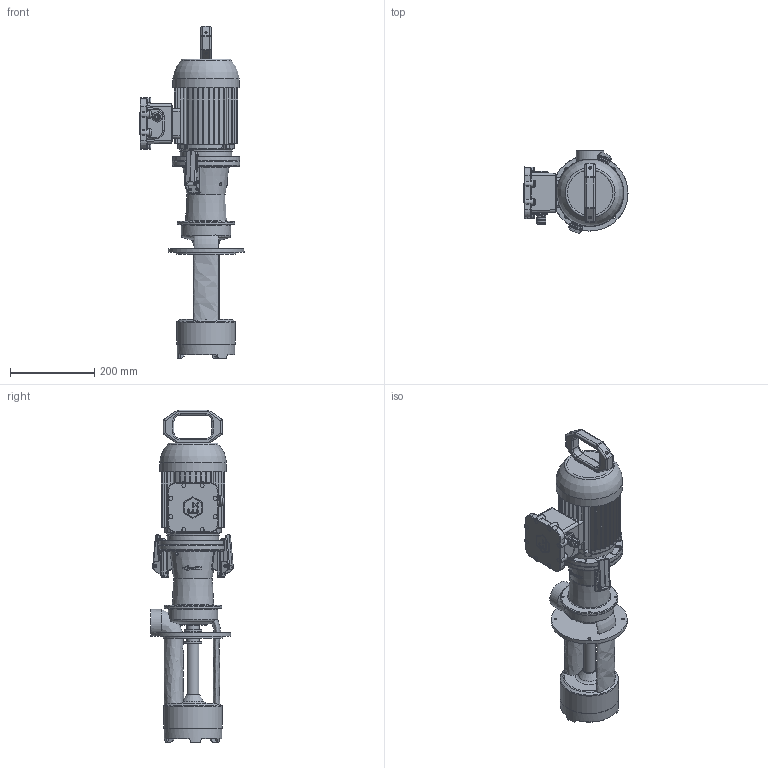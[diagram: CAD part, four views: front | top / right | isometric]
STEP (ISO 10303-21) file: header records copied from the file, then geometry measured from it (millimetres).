
FILE_DESCRIPTION(/* description */ ('Unknown'),/* implementation_level */ '2;1');
FILE_NAME(/* name */ 'EP EX 252-250',/* time_stamp */ '2025-06-03T09:13:48+03:00',/* author */ ('Unknown'),/* organization */ ('Unknown'),/* preprocessor_version */ 'ST-DEVELOPER v16.7',/* originating_system */ 'DEX',/* authorisation */ $);
FILE_SCHEMA (('AUTOMOTIVE_DESIGN {1 0 10303 214 3 1 1}'));
Length unit declared in the file: millimetre
Products named in the file (1): EP EX 252-250
Bounding box: 246.5 x 195.43 x 786.45 mm (x, y, z)
Volume: 8150327.7 mm3; surface area: 717239.3 mm2
Topology: 1 solids, 22 shells, 2297 faces, 6058 edges, 3779 vertices
Faces by surface type: cylinder 802, plane 730, bspline 404, torus 201, cone 113, sphere 47
Full cylindrical faces by diameter (mm): 3 x12, 3.242 x16, 4 x10, 4.134 x24, 4.9 x4, 5 x90, 5.3 x4, 5.5 x2, 5.7 x8, 6 x8, 7 x8, 8 x3, 9.5 x8, 12 x1, 13 x2, 13.962 x1, 16 x1, 18.348 x1, 18.376 x5, 19 x1, 20 x2, 21.8 x2, 28 x1, 29 x3, 30 x1, 42 x3, 44 x1, 48 x1, 62 x1, 73 x1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
Entity records: 109777 total; most frequent: CARTESIAN_POINT 43445, ORIENTED_EDGE 10866, DIRECTION 9982, EDGE_CURVE 5433, AXIS2_PLACEMENT_3D 4017, VERTEX_POINT 3586, FACE_BOUND 2697, EDGE_LOOP 2689
